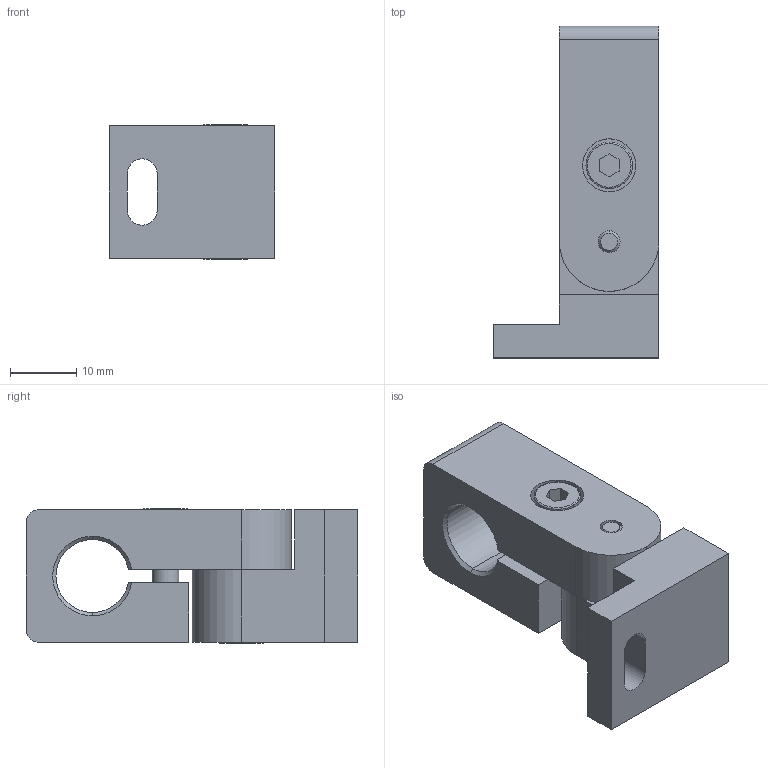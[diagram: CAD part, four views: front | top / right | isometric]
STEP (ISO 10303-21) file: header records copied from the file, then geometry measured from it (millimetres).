
FILE_DESCRIPTION (( 'STEP AP203' ), '1' );
FILE_NAME ('9SI1101N00 - ASSIEME SUPPORTO INCLINABILE Ø11.STEP', '2021-06-09T10:13:44', ( '' ), ( '' ), 'SwSTEP 2.0', 'SolidWorks 2019', '' );
FILE_SCHEMA (( 'CONFIG_CONTROL_DESIGN' ));
Length unit declared in the file: millimetre
Products named in the file (5): Vite TCEI UNI 5931 A2_M04x 16; 9SI1101N00 - ASSIEME SUPPORTO INCLINABILE Ø11; 26518-11 - Supporto inclinabile superiore Ø11 - Anodizzato nero lucido_Default<A macchina>; Rondella Schnorr_M4; 26520-10 - Base supporto inclinabile Ø14 - Anodizzato nero lucido_Default<A macchina>
Assembly tree (6 placements, depth 2):
  9SI1101N00 - ASSIEME SUPPORTO INCLINABILE Ø11
    26520-10 - Base supporto inclinabile Ø14 - Anodizzato nero lucido_Default<A macchina>
    26518-11 - Supporto inclinabile superiore Ø11 - Anodizzato nero lucido_Default<A macchina>
    Rondella Schnorr_M4  x2
    Vite TCEI UNI 5931 A2_M04x 16  x2
Bounding box: 25 x 50 x 20.2 mm (x, y, z)
Volume: 13343.4 mm3; surface area: 7280.1 mm2
Topology: 6 solids, 6 shells, 97 faces, 225 edges, 146 vertices
Faces by surface type: plane 45, cylinder 38, cone 10, torus 4
Entity records: 2752 total; most frequent: DIRECTION 407, CARTESIAN_POINT 383, ORIENTED_EDGE 350, EDGE_CURVE 175, AXIS2_PLACEMENT_3D 154, VERTEX_POINT 114, LINE 99, VECTOR 99
